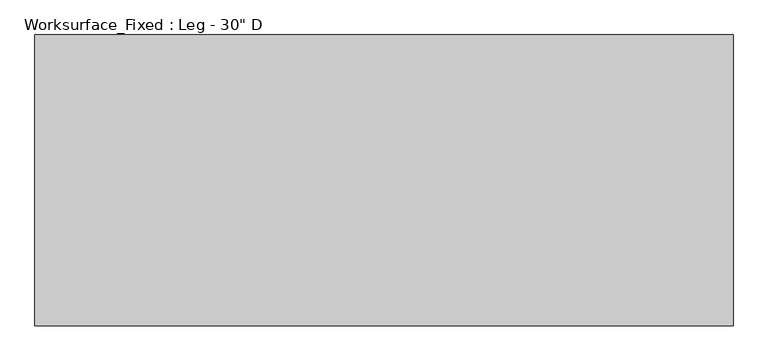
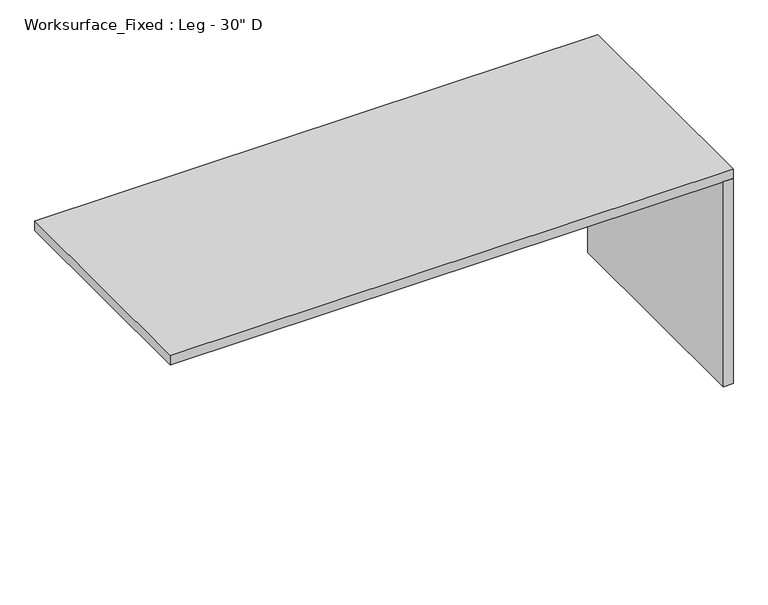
"""IFC4 building model written with IfcOpenShell, lengths in millimetres: furniture geometry."""

from ifc_helpers import new_model, si_unit, frame, origin, origin_with_axes, place, context, project, spatial, polyline, outline, extrude, source, transform, mapped, element, save


def furniture_fd5d923a(model_context):
    return source(origin(), model_context, "Body", "SweptSolid", [
        extrude(outline(polyline([(654.85, 1804.6851165), (654.85, 1808.1625), (704.85, 1808.1625), (704.85, 198.5886722), (677.2318516, 198.5886722), (677.2318516, 468.4636722), (670.8818516, 468.4636722), (664.8286016, 474.5169222), (664.8286016, 1794.7065149), (654.85, 1804.6851165)])), frame((0.0, 57.15, 0.0), z_axis=(0.0, 1.0, 0.0), x_axis=(0.0, 0.0, 1.0)), (0.0, 0.0, 1.0), 647.7),
        extrude(outline(polyline([(1828.8, 762.0), (1828.8, 0.0), (1797.05, 0.0), (1797.05, 762.0), (1828.8, 762.0)])), origin_with_axes(), (0.0, 0.0, 1.0), 704.85),
        extrude(outline(polyline([(1828.8, 762.0), (1828.8, 0.0), (0.0, 0.0), (0.0, 762.0), (1828.8, 762.0)])), frame((0.0, 0.0, 704.85), z_axis=(0.0, 0.0, 1.0), x_axis=(1.0, 0.0, 0.0)), (0.0, 0.0, 1.0), 31.75),
    ])


if __name__ == "__main__":
    model = new_model("IFC4")
    model_context = context("Model", 3, world=origin())
    ifc_project = project(units=[si_unit("LENGTHUNIT", "METRE", prefix="MILLI")], contexts=[model_context])
    site = spatial("IfcSite", under=ifc_project)
    building = spatial("IfcBuilding", under=site)
    placement = place(None, origin())
    furniture_shape = furniture_fd5d923a(model_context)
    element("IfcFurniture", 1, ObjectType="Worksurface_Fixed : Leg - 30\" D", at=placement, inside=building, context=model_context, shape_type="MappedRepresentation", body=[
        mapped(furniture_shape, transform((0.0, 0.0, 0.0), x_axis=(1.0, 0.0, 0.0), y_axis=(0.0, 1.0, 0.0), z_axis=(0.0, 0.0, 1.0))),
    ])
    save(model, "model.ifc")
